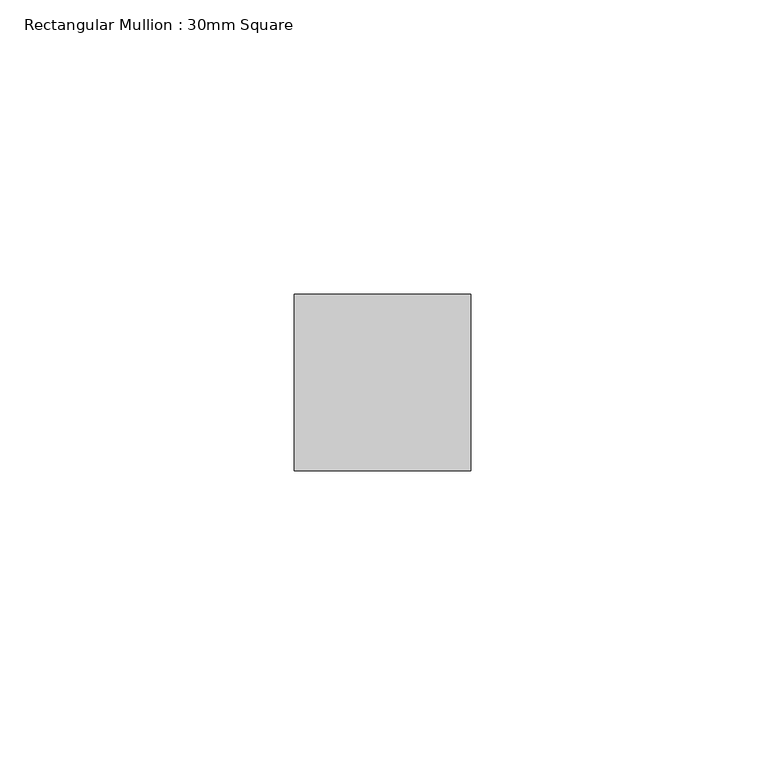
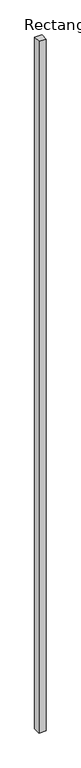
"""IFC4 building model written with IfcOpenShell, lengths in millimetres: member geometry, Rectangular Mullion : 30mm Square."""

from ifc_helpers import new_model, si_unit, frame, origin, place, context, project, spatial, polyline, outline, extrude, source, transform, mapped, element, save


def rectangular_mullion_30mm_square_7a78963c(model_context):
    return source(origin(), model_context, "Body", "SweptSolid", [
        extrude(outline(polyline([(15.0, 15.0), (15.0, -15.0), (-15.0, -15.0), (-15.0, 15.0), (15.0, 15.0)])), frame((0.0, 0.0, -3048.0), z_axis=(0.0, 0.0, 1.0), x_axis=(1.0, 0.0, 0.0)), (0.0, 0.0, 1.0), 3048.0),
    ])


if __name__ == "__main__":
    model = new_model("IFC4")
    model_context = context("Model", 3, world=origin())
    ifc_project = project(units=[si_unit("LENGTHUNIT", "METRE", prefix="MILLI")], contexts=[model_context])
    site = spatial("IfcSite", under=ifc_project)
    building = spatial("IfcBuilding", under=site)
    placement = place(None, origin())
    rectangular_mullion_30mm_square_shape = rectangular_mullion_30mm_square_7a78963c(model_context)
    element("IfcMember", 1, ObjectType="Rectangular Mullion : 30mm Square", at=placement, inside=building, context=model_context, shape_type="MappedRepresentation", body=[
        mapped(rectangular_mullion_30mm_square_shape, transform((0.0, 0.0, 0.0), x_axis=(1.0, 0.0, 0.0), y_axis=(0.0, 1.0, 0.0), z_axis=(0.0, 0.0, 1.0))),
    ])
    save(model, "model.ifc")
